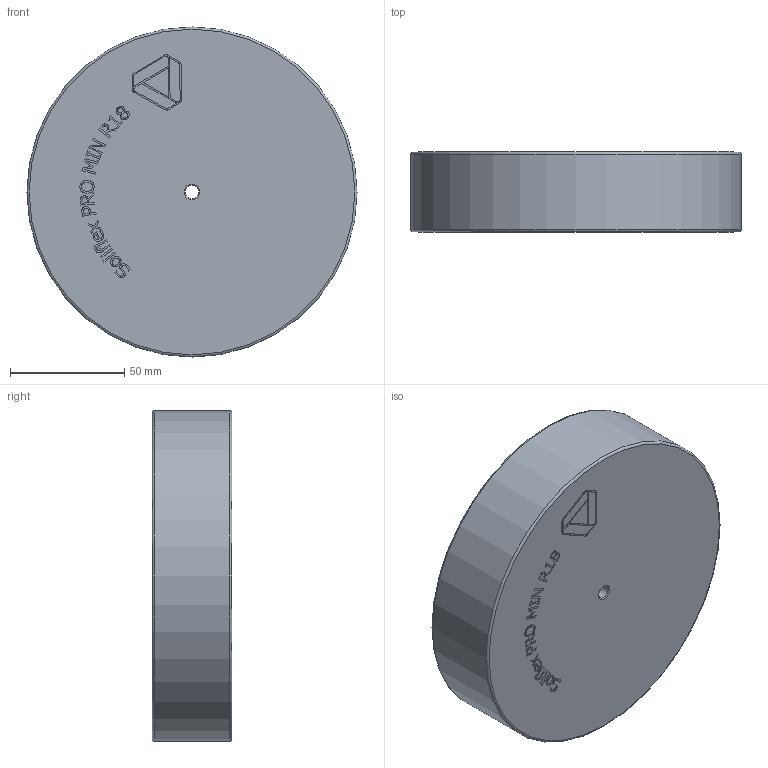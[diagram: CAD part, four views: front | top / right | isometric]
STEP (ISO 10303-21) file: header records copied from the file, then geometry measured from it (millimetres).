
FILE_DESCRIPTION(/* description */ ('Unknown'),/* implementation_level */ '2;1');
FILE_NAME(/* name */ 'GEN0001-D285 MIN R18 D144.7 PB06 BLUE',/* time_stamp */ '2022-11-03T09:56:27+01:00',/* author */ ('Unknown'),/* organization */ ('Unknown'),/* preprocessor_version */ 'ST-DEVELOPER v18.1',/* originating_system */ 'Solid Edge',/* authorisation */ 'Unknown');
FILE_SCHEMA (('AUTOMOTIVE_DESIGN {1 0 10303 214 3 1 1}'));
Length unit declared in the file: millimetre
Products named in the file (1): GEN0001-D285 MIN R18 D144.7 PB06 BLUE
Bounding box: 144.7 x 35 x 144.7 mm (x, y, z)
Volume: 574356.8 mm3; surface area: 49077.8 mm2
Topology: 1 solids, 1 shells, 218 faces, 551 edges, 366 vertices
Faces by surface type: plane 168, bspline 30, cylinder 16, torus 4
Full cylindrical faces by diameter (mm): 6 x1, 144.7 x1
Entity records: 8153 total; most frequent: CARTESIAN_POINT 3066, ORIENTED_EDGE 1082, DIRECTION 895, EDGE_CURVE 541, LINE 445, VECTOR 445, VERTEX_POINT 366, EDGE_LOOP 261
